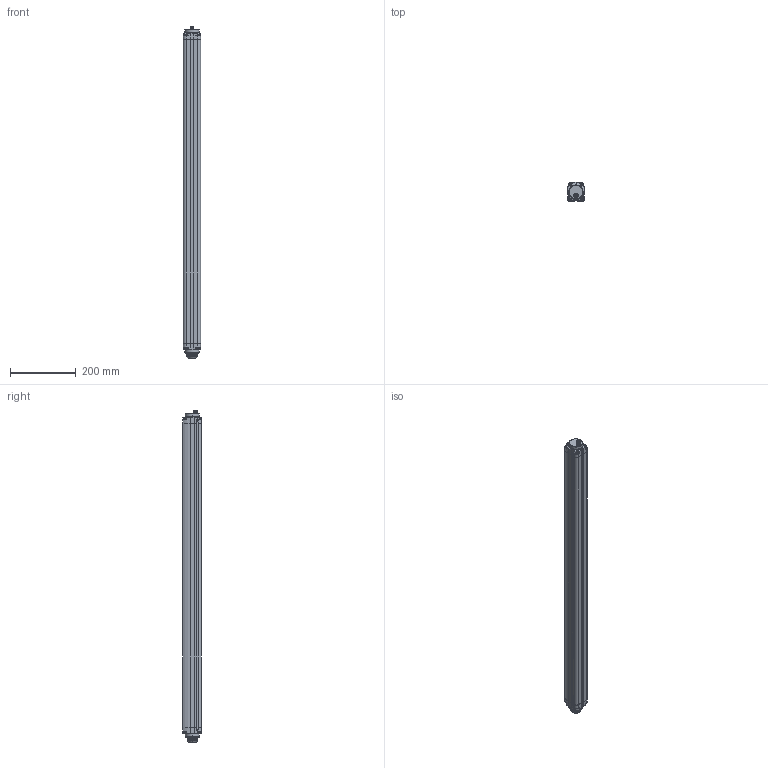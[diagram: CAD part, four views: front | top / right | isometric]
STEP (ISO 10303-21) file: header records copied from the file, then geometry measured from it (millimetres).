
FILE_DESCRIPTION(('STEP AP214'),'1');
FILE_NAME('SGBodyBigBase_090_safetylightcurtains.stp','2017-11-09T11:08:39',('3D-Tool'),(' '),'Spatial InterOp 3D',' ',' ');
FILE_SCHEMA(('AUTOMOTIVE_DESIGN { 1 0 10303 214 1 1 1 1 }'));
Length unit declared in the file: millimetre
Products named in the file (1): 1
Bounding box: 52 x 56.93 x 1006.4 mm (x, y, z)
Surface area: 252939.7 mm2 (no closed solid volume)
Topology: 0 solids, 1056 shells, 1056 faces, 5610 edges, 5579 vertices
Faces by surface type: bspline 1056
Entity records: 125847 total; most frequent: CARTESIAN_POINT 65095, ORIENTED_EDGE 5579, EDGE_CURVE 5579, VERTEX_POINT 5579, PRESENTATION_STYLE_ASSIGNMENT 4112, COLOUR_RGB 4112, DIRECTION 3997, B_SPLINE_CURVE_WITH_KNOTS 3622
